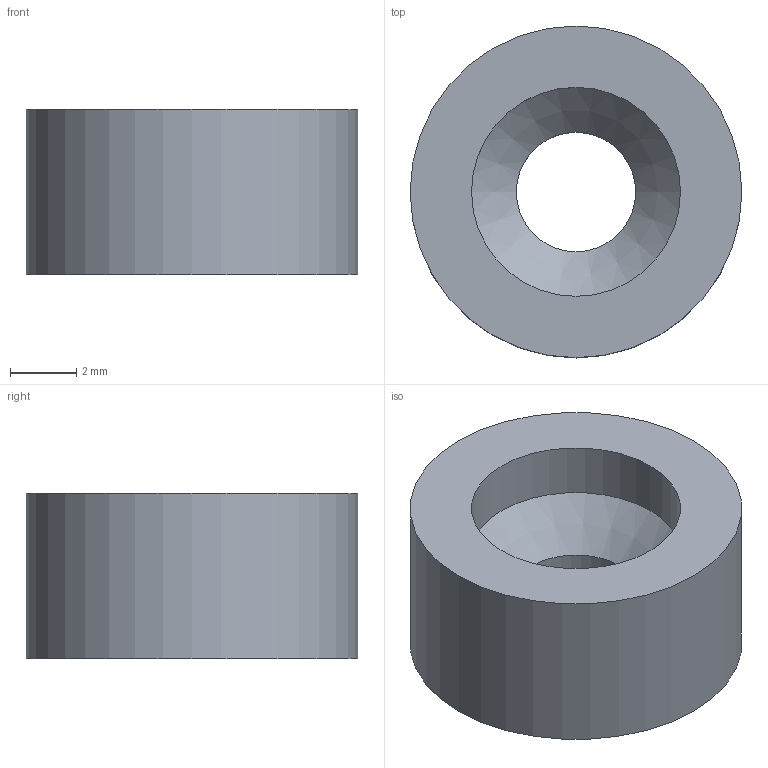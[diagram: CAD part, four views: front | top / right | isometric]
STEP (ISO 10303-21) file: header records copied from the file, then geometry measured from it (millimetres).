
FILE_DESCRIPTION(/* description */ (''),/* implementation_level */ '2;1');
FILE_NAME(/* name */ 'C:\Users\CAD2\Desktop\Nuova cartella\70.05.stp',/* time_stamp */ '2015-05-18T16:57:47+02:00',/* author */ ('CAD2'),/* organization */ (''),/* preprocessor_version */ 'ST-DEVELOPER v15.2',/* originating_system */ 'Autodesk Inventor 2014',/* authorisation */ '');
FILE_SCHEMA (('CONFIG_CONTROL_DESIGN'));
Length unit declared in the file: millimetre
Products named in the file (1): 70.05
Bounding box: 10 x 10 x 5 mm (x, y, z)
Volume: 294.3 mm3; surface area: 357.8 mm2
Topology: 1 solids, 1 shells, 6 faces, 10 edges, 6 vertices
Faces by surface type: cylinder 3, plane 2, cone 1
Full cylindrical faces by diameter (mm): 3.6 x1, 6.3 x1, 10 x1
Entity records: 152 total; most frequent: DIRECTION 26, CARTESIAN_POINT 19, AXIS2_PLACEMENT_3D 13, EDGE_LOOP 12, ORIENTED_EDGE 12, FACE_BOUND 8, CIRCLE 6, VERTEX_POINT 6
